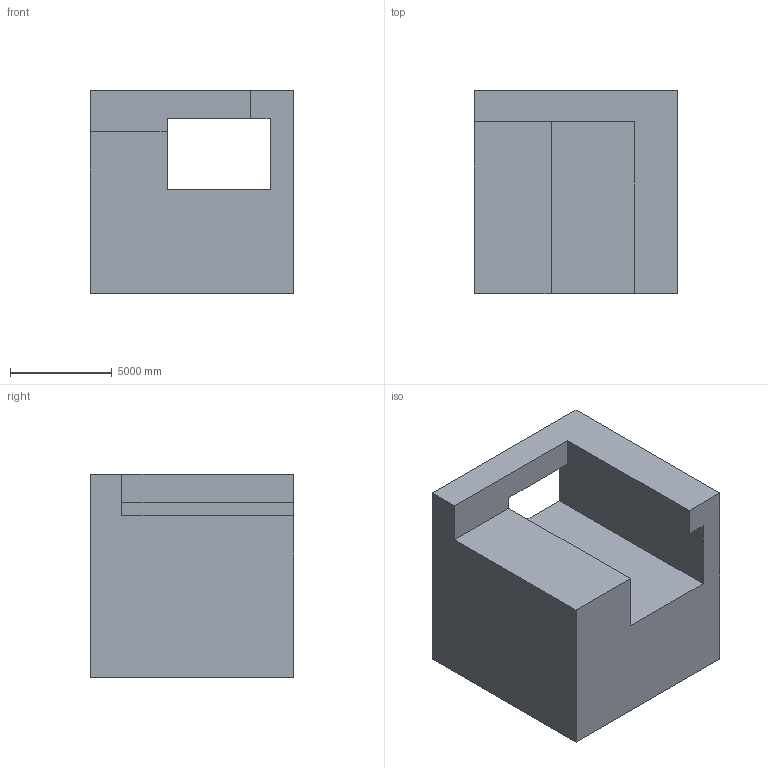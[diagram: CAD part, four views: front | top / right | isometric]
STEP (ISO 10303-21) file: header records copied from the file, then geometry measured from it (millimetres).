
FILE_DESCRIPTION (( 'STEP AP203' ), '1' );
FILE_NAME ('1027.STEP', '2022-08-18T12:28:32', ( 'user' ), ( '' ), 'SwSTEP 2.0', 'SolidWorks 2021', '' );
FILE_SCHEMA (( 'CONFIG_CONTROL_DESIGN' ));
Length unit declared in the file: centimetre
Products named in the file (1): 1027
Bounding box: 10000 x 10000 x 10000 mm (x, y, z)
Volume: 709629797147.9 mm3; surface area: 655685266.7 mm2
Topology: 1 solids, 1 shells, 13 faces, 36 edges, 24 vertices
Faces by surface type: plane 13
Entity records: 491 total; most frequent: CARTESIAN_POINT 74, ORIENTED_EDGE 72, DIRECTION 64, LINE 36, EDGE_CURVE 36, VECTOR 36, VERTEX_POINT 24, AXIS2_PLACEMENT_3D 14
